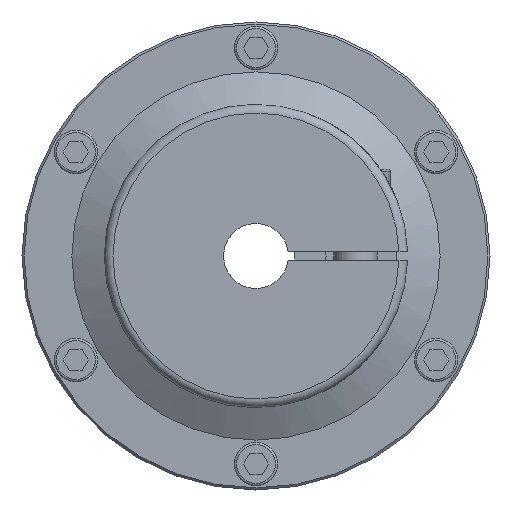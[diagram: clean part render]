
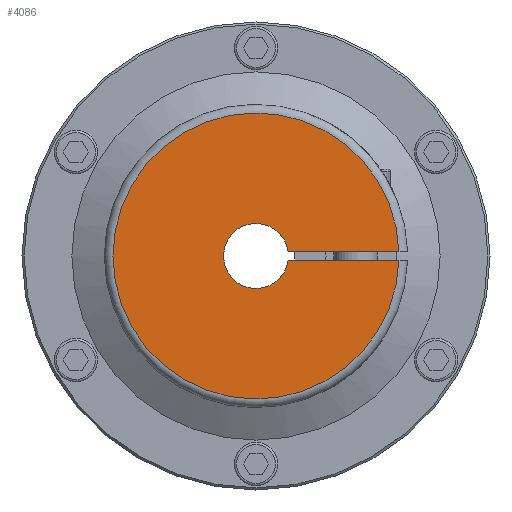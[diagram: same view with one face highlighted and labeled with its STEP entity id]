
A CAD part, left-side view. The second image highlights one B-rep face of the part: STEP entity #4086.
In plain terms, the highlighted planar face has unit normal (-1, 0, 0).
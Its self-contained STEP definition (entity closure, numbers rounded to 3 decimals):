
#138=PLANE('',#4424);
#269=CIRCLE('',#4392,33.);
#291=CIRCLE('',#4423,7.5);
#420=LINE('',#5861,#674);
#421=LINE('',#5862,#675);
#674=VECTOR('',#4854,1000.);
#675=VECTOR('',#4855,1000.);
#986=ORIENTED_EDGE('',*,*,#2187,.F.);
#987=ORIENTED_EDGE('',*,*,#2186,.F.);
#988=ORIENTED_EDGE('',*,*,#2188,.F.);
#989=ORIENTED_EDGE('',*,*,#2143,.T.);
#2143=EDGE_CURVE('',#2749,#2748,#269,.T.);
#2186=EDGE_CURVE('',#2781,#2780,#291,.T.);
#2187=EDGE_CURVE('',#2780,#2748,#420,.T.);
#2188=EDGE_CURVE('',#2749,#2781,#421,.T.);
#2748=VERTEX_POINT('',#5769);
#2749=VERTEX_POINT('',#5771);
#2780=VERTEX_POINT('',#5856);
#2781=VERTEX_POINT('',#5858);
#3350=EDGE_LOOP('',(#986,#987,#988,#989));
#3697=FACE_BOUND('',#3350,.T.);
#4086=ADVANCED_FACE('',(#3697),#138,.T.);
#4392=AXIS2_PLACEMENT_3D('',#5770,#4768,#4769);
#4423=AXIS2_PLACEMENT_3D('',#5859,#4850,#4851);
#4424=AXIS2_PLACEMENT_3D('',#5860,#4852,#4853);
#4768=DIRECTION('',(-1.,0.,0.));
#4769=DIRECTION('',(0.,0.,1.));
#4850=DIRECTION('',(-1.,0.,0.));
#4851=DIRECTION('',(0.,0.,1.));
#4852=DIRECTION('',(-1.,0.,0.));
#4853=DIRECTION('',(0.,0.,1.));
#4854=DIRECTION('',(0.,-1.,0.));
#4855=DIRECTION('',(0.,1.,0.));
#5769=CARTESIAN_POINT('',(0.,-32.985,-1.));
#5770=CARTESIAN_POINT('',(0.,0.,0.));
#5771=CARTESIAN_POINT('',(0.,-32.985,1.));
#5856=CARTESIAN_POINT('',(0.,-7.433,-1.));
#5858=CARTESIAN_POINT('',(0.,-7.433,1.));
#5859=CARTESIAN_POINT('',(0.,0.,0.));
#5860=CARTESIAN_POINT('',(0.,0.,7.5));
#5861=CARTESIAN_POINT('',(0.,0.04,-1.));
#5862=CARTESIAN_POINT('',(0.,-43.893,1.));
